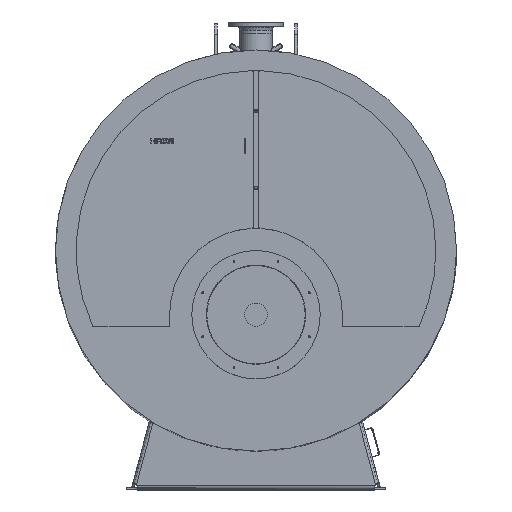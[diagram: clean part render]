
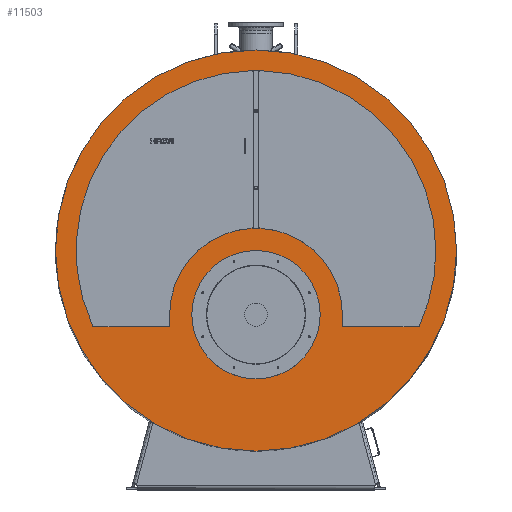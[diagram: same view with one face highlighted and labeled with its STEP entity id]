
A CAD part, top view. The second image highlights one B-rep face of the part: STEP entity #11503.
In plain terms, the highlighted planar face has unit normal (0, 0, 1).
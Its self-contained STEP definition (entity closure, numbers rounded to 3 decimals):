
#11345=CARTESIAN_POINT('',(-468.489,-675.,101.));
#11346=DIRECTION('',(0.,0.,1.));
#11347=DIRECTION('',(1.,0.,0.));
#11348=AXIS2_PLACEMENT_3D('',#11345,#11346,#11347);
#11349=PLANE('',#11348);
#11350=CARTESIAN_POINT('',(335.,-335.,101.));
#11351=VERTEX_POINT('',#11350);
#11352=CARTESIAN_POINT('',(0.,-335.,101.));
#11353=DIRECTION('',(0.,0.,1.));
#11354=DIRECTION('',(1.,0.,-0.));
#11355=AXIS2_PLACEMENT_3D('',#11352,#11353,#11354);
#11356=CIRCLE('',#11355,335.);
#11357=EDGE_CURVE('',#11351,#11351,#11356,.T.);
#11358=ORIENTED_EDGE('',*,*,#11357,.F.);
#11359=EDGE_LOOP('',(#11358));
#11360=FACE_BOUND('',#11359,.T.);
#11361=CARTESIAN_POINT('',(-451.,-393.,101.));
#11362=VERTEX_POINT('',#11361);
#11363=CARTESIAN_POINT('',(-451.,-335.,101.));
#11364=VERTEX_POINT('',#11363);
#11365=CARTESIAN_POINT('',(-451.,-393.,101.));
#11366=DIRECTION('',(0.,1.,0.));
#11367=VECTOR('',#11366,58.);
#11368=LINE('',#11365,#11367);
#11369=EDGE_CURVE('',#11362,#11364,#11368,.T.);
#11370=ORIENTED_EDGE('',*,*,#11369,.F.);
#11371=CARTESIAN_POINT('',(-457.,-399.,101.));
#11372=VERTEX_POINT('',#11371);
#11373=CARTESIAN_POINT('',(-457.,-393.,101.));
#11374=DIRECTION('',(0.,0.,1.));
#11375=DIRECTION('',(1.,0.,-0.));
#11376=AXIS2_PLACEMENT_3D('',#11373,#11374,#11375);
#11377=CIRCLE('',#11376,6.);
#11378=EDGE_CURVE('',#11372,#11362,#11377,.T.);
#11379=ORIENTED_EDGE('',*,*,#11378,.F.);
#11380=CARTESIAN_POINT('',(-846.191,-399.,101.));
#11381=VERTEX_POINT('',#11380);
#11382=CARTESIAN_POINT('',(-846.191,-399.,101.));
#11383=DIRECTION('',(1.,-0.,0.));
#11384=VECTOR('',#11383,389.191);
#11385=LINE('',#11382,#11384);
#11386=EDGE_CURVE('',#11381,#11372,#11385,.T.);
#11387=ORIENTED_EDGE('',*,*,#11386,.F.);
#11388=CARTESIAN_POINT('',(-851.633,-395.527,101.));
#11389=VERTEX_POINT('',#11388);
#11390=CARTESIAN_POINT('',(-846.191,-393.,101.));
#11391=DIRECTION('',(0.,0.,1.));
#11392=DIRECTION('',(1.,0.,-0.));
#11393=AXIS2_PLACEMENT_3D('',#11390,#11391,#11392);
#11394=CIRCLE('',#11393,6.);
#11395=EDGE_CURVE('',#11389,#11381,#11394,.T.);
#11396=ORIENTED_EDGE('',*,*,#11395,.F.);
#11397=CARTESIAN_POINT('',(-21.135,938.762,101.));
#11398=VERTEX_POINT('',#11397);
#11399=CARTESIAN_POINT('',(-0.,-0.,101.));
#11400=DIRECTION('',(0.,0.,1.));
#11401=DIRECTION('',(1.,0.,-0.));
#11402=AXIS2_PLACEMENT_3D('',#11399,#11400,#11401);
#11403=CIRCLE('',#11402,939.);
#11404=EDGE_CURVE('',#11398,#11389,#11403,.T.);
#11405=ORIENTED_EDGE('',*,*,#11404,.F.);
#11406=CARTESIAN_POINT('',(21.135,938.762,101.));
#11407=VERTEX_POINT('',#11406);
#11408=CARTESIAN_POINT('',(21.135,938.762,101.));
#11409=DIRECTION('',(-1.,0.,0.));
#11410=VECTOR('',#11409,42.27);
#11411=LINE('',#11408,#11410);
#11412=EDGE_CURVE('',#11407,#11398,#11411,.T.);
#11413=ORIENTED_EDGE('',*,*,#11412,.F.);
#11414=CARTESIAN_POINT('',(939.,-0.,101.));
#11415=VERTEX_POINT('',#11414);
#11416=CARTESIAN_POINT('',(-0.,-0.,101.));
#11417=DIRECTION('',(0.,0.,1.));
#11418=DIRECTION('',(1.,0.,-0.));
#11419=AXIS2_PLACEMENT_3D('',#11416,#11417,#11418);
#11420=CIRCLE('',#11419,939.);
#11421=EDGE_CURVE('',#11415,#11407,#11420,.T.);
#11422=ORIENTED_EDGE('',*,*,#11421,.F.);
#11423=CARTESIAN_POINT('',(851.633,-395.527,101.));
#11424=VERTEX_POINT('',#11423);
#11425=CARTESIAN_POINT('',(-0.,-0.,101.));
#11426=DIRECTION('',(0.,0.,1.));
#11427=DIRECTION('',(1.,0.,-0.));
#11428=AXIS2_PLACEMENT_3D('',#11425,#11426,#11427);
#11429=CIRCLE('',#11428,939.);
#11430=EDGE_CURVE('',#11424,#11415,#11429,.T.);
#11431=ORIENTED_EDGE('',*,*,#11430,.F.);
#11432=CARTESIAN_POINT('',(846.191,-399.,101.));
#11433=VERTEX_POINT('',#11432);
#11434=CARTESIAN_POINT('',(846.191,-393.,101.));
#11435=DIRECTION('',(0.,0.,1.));
#11436=DIRECTION('',(1.,0.,-0.));
#11437=AXIS2_PLACEMENT_3D('',#11434,#11435,#11436);
#11438=CIRCLE('',#11437,6.);
#11439=EDGE_CURVE('',#11433,#11424,#11438,.T.);
#11440=ORIENTED_EDGE('',*,*,#11439,.F.);
#11441=CARTESIAN_POINT('',(457.,-399.,101.));
#11442=VERTEX_POINT('',#11441);
#11443=CARTESIAN_POINT('',(457.,-399.,101.));
#11444=DIRECTION('',(1.,0.,-0.));
#11445=VECTOR('',#11444,389.191);
#11446=LINE('',#11443,#11445);
#11447=EDGE_CURVE('',#11442,#11433,#11446,.T.);
#11448=ORIENTED_EDGE('',*,*,#11447,.F.);
#11449=CARTESIAN_POINT('',(451.,-393.,101.));
#11450=VERTEX_POINT('',#11449);
#11451=CARTESIAN_POINT('',(457.,-393.,101.));
#11452=DIRECTION('',(0.,0.,1.));
#11453=DIRECTION('',(1.,0.,-0.));
#11454=AXIS2_PLACEMENT_3D('',#11451,#11452,#11453);
#11455=CIRCLE('',#11454,6.);
#11456=EDGE_CURVE('',#11450,#11442,#11455,.T.);
#11457=ORIENTED_EDGE('',*,*,#11456,.F.);
#11458=CARTESIAN_POINT('',(451.,-335.,101.));
#11459=VERTEX_POINT('',#11458);
#11460=CARTESIAN_POINT('',(451.,-335.,101.));
#11461=DIRECTION('',(0.,-1.,0.));
#11462=VECTOR('',#11461,58.);
#11463=LINE('',#11460,#11462);
#11464=EDGE_CURVE('',#11459,#11450,#11463,.T.);
#11465=ORIENTED_EDGE('',*,*,#11464,.F.);
#11466=CARTESIAN_POINT('',(20.724,115.524,101.));
#11467=VERTEX_POINT('',#11466);
#11468=CARTESIAN_POINT('',(-0.,-335.,101.));
#11469=DIRECTION('',(-0.,-0.,-1.));
#11470=DIRECTION('',(1.,0.,-0.));
#11471=AXIS2_PLACEMENT_3D('',#11468,#11469,#11470);
#11472=CIRCLE('',#11471,451.);
#11473=EDGE_CURVE('',#11467,#11459,#11472,.T.);
#11474=ORIENTED_EDGE('',*,*,#11473,.F.);
#11475=CARTESIAN_POINT('',(-20.724,115.524,101.));
#11476=VERTEX_POINT('',#11475);
#11477=CARTESIAN_POINT('',(-20.724,115.524,101.));
#11478=DIRECTION('',(1.,0.,-0.));
#11479=VECTOR('',#11478,41.449);
#11480=LINE('',#11477,#11479);
#11481=EDGE_CURVE('',#11476,#11467,#11480,.T.);
#11482=ORIENTED_EDGE('',*,*,#11481,.F.);
#11483=CARTESIAN_POINT('',(-0.,-335.,101.));
#11484=DIRECTION('',(-0.,-0.,-1.));
#11485=DIRECTION('',(1.,0.,-0.));
#11486=AXIS2_PLACEMENT_3D('',#11483,#11484,#11485);
#11487=CIRCLE('',#11486,451.);
#11488=EDGE_CURVE('',#11364,#11476,#11487,.T.);
#11489=ORIENTED_EDGE('',*,*,#11488,.F.);
#11490=EDGE_LOOP('',(#11370,#11379,#11387,#11396,#11405,#11413,#11422,#11431,#11440,#11448,#11457,#11465,#11474,#11482,#11489));
#11491=FACE_BOUND('',#11490,.T.);
#11492=CARTESIAN_POINT('',(1047.,-0.,101.));
#11493=VERTEX_POINT('',#11492);
#11494=CARTESIAN_POINT('',(0.,0.,101.));
#11495=DIRECTION('',(0.,0.,1.));
#11496=DIRECTION('',(1.,0.,-0.));
#11497=AXIS2_PLACEMENT_3D('',#11494,#11495,#11496);
#11498=CIRCLE('',#11497,1047.);
#11499=EDGE_CURVE('',#11493,#11493,#11498,.T.);
#11500=ORIENTED_EDGE('',*,*,#11499,.T.);
#11501=EDGE_LOOP('',(#11500));
#11502=FACE_BOUND('',#11501,.T.);
#11503=ADVANCED_FACE('',(#11360,#11491,#11502),#11349,.T.);
